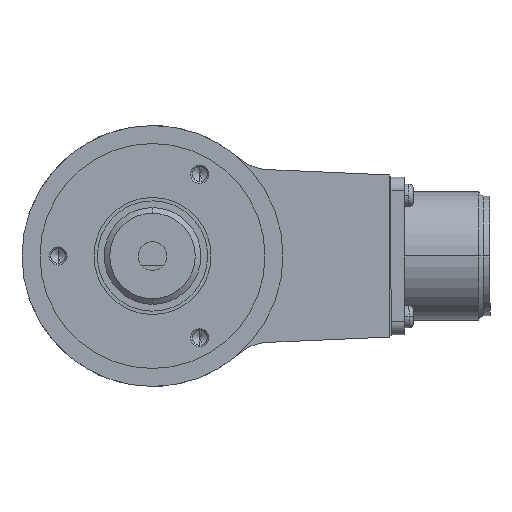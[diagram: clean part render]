
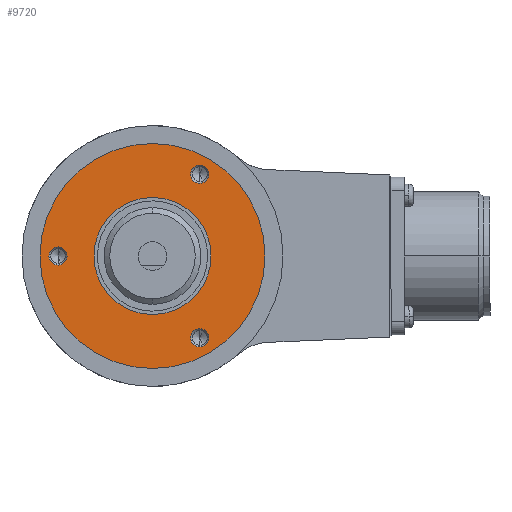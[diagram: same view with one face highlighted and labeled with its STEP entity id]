
A CAD part, left-side view. The second image highlights one B-rep face of the part: STEP entity #9720.
In plain terms, the highlighted planar face has unit normal (-1, 0, 0).
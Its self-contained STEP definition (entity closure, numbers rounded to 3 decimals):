
#380 = CARTESIAN_POINT ( 'NONE',  ( -3.622, 50.423, 0. ) ) ;
#474 = ORIENTED_EDGE ( 'NONE', *, *, #15667, .F. ) ;
#584 = VERTEX_POINT ( 'NONE', #7997 ) ;
#756 = CARTESIAN_POINT ( 'NONE',  ( -3.622, 25.423, 0. ) ) ;
#780 = ORIENTED_EDGE ( 'NONE', *, *, #10001, .F. ) ;
#1028 = CIRCLE ( 'NONE', #16323, 2.025 ) ;
#1061 = VERTEX_POINT ( 'NONE', #12408 ) ;
#1132 = CIRCLE ( 'NONE', #3819, 2.025 ) ;
#1258 = CARTESIAN_POINT ( 'NONE',  ( -3.622, 25.423, -13. ) ) ;
#1331 = EDGE_CURVE ( 'NONE', #1061, #4243, #12678, .T. ) ;
#1952 = DIRECTION ( 'NONE',  ( -1., 0., 0. ) ) ;
#1978 = EDGE_CURVE ( 'NONE', #4243, #1061, #3317, .T. ) ;
#2093 = EDGE_LOOP ( 'NONE', ( #780, #5811 ) ) ;
#2412 = CARTESIAN_POINT ( 'NONE',  ( -3.622, 14.923, 18.187 ) ) ;
#2825 = FACE_BOUND ( 'NONE', #2093, .T. ) ;
#3079 = ORIENTED_EDGE ( 'NONE', *, *, #7835, .F. ) ;
#3316 = EDGE_CURVE ( 'NONE', #584, #7646, #16212, .T. ) ;
#3317 = CIRCLE ( 'NONE', #15104, 25. ) ;
#3497 = EDGE_LOOP ( 'NONE', ( #474, #11963 ) ) ;
#3555 = CARTESIAN_POINT ( 'NONE',  ( -3.622, 25.423, 0. ) ) ;
#3775 = DIRECTION ( 'NONE',  ( -1., 0., 0. ) ) ;
#3819 = AXIS2_PLACEMENT_3D ( 'NONE', #12044, #8004, #10773 ) ;
#4037 = CARTESIAN_POINT ( 'NONE',  ( -3.622, 25.423, 25. ) ) ;
#4145 = AXIS2_PLACEMENT_3D ( 'NONE', #13455, #1952, #7081 ) ;
#4243 = VERTEX_POINT ( 'NONE', #4037 ) ;
#4527 = CIRCLE ( 'NONE', #11499, 2.025 ) ;
#4668 = VERTEX_POINT ( 'NONE', #5693 ) ;
#4874 = DIRECTION ( 'NONE',  ( 0., 0., 1. ) ) ;
#4926 = AXIS2_PLACEMENT_3D ( 'NONE', #15263, #3775, #8886 ) ;
#5156 = VERTEX_POINT ( 'NONE', #8666 ) ;
#5304 = CARTESIAN_POINT ( 'NONE',  ( -3.622, 25.423, 0. ) ) ;
#5441 = AXIS2_PLACEMENT_3D ( 'NONE', #3555, #13791, #11283 ) ;
#5468 = CIRCLE ( 'NONE', #4926, 2.025 ) ;
#5517 = FACE_OUTER_BOUND ( 'NONE', #14357, .T. ) ;
#5552 = AXIS2_PLACEMENT_3D ( 'NONE', #5304, #10171, #7566 ) ;
#5693 = CARTESIAN_POINT ( 'NONE',  ( -3.622, 25.423, 13. ) ) ;
#5811 = ORIENTED_EDGE ( 'NONE', *, *, #10152, .F. ) ;
#6441 = DIRECTION ( 'NONE',  ( -1., 0., 0. ) ) ;
#6593 = DIRECTION ( 'NONE',  ( 0., 0., 1. ) ) ;
#6776 = DIRECTION ( 'NONE',  ( 0., 0., -1. ) ) ;
#7081 = DIRECTION ( 'NONE',  ( 0., 0., 1. ) ) ;
#7325 = CARTESIAN_POINT ( 'NONE',  ( -3.622, 46.423, -2.025 ) ) ;
#7416 = CIRCLE ( 'NONE', #5552, 13. ) ;
#7566 = DIRECTION ( 'NONE',  ( 0., 0., 1. ) ) ;
#7646 = VERTEX_POINT ( 'NONE', #15616 ) ;
#7752 = CARTESIAN_POINT ( 'NONE',  ( -3.622, 14.923, 16.162 ) ) ;
#7755 = VERTEX_POINT ( 'NONE', #7325 ) ;
#7786 = VERTEX_POINT ( 'NONE', #1258 ) ;
#7835 = EDGE_CURVE ( 'NONE', #4668, #7786, #7416, .T. ) ;
#7997 = CARTESIAN_POINT ( 'NONE',  ( -3.622, 14.923, -20.212 ) ) ;
#8004 = DIRECTION ( 'NONE',  ( -1., 0., 0. ) ) ;
#8201 = CIRCLE ( 'NONE', #16525, 13. ) ;
#8356 = CIRCLE ( 'NONE', #13194, 2.025 ) ;
#8415 = VERTEX_POINT ( 'NONE', #7752 ) ;
#8574 = EDGE_CURVE ( 'NONE', #5156, #8415, #1132, .T. ) ;
#8666 = CARTESIAN_POINT ( 'NONE',  ( -3.622, 14.923, 20.212 ) ) ;
#8886 = DIRECTION ( 'NONE',  ( 0., 0., 1. ) ) ;
#8993 = EDGE_CURVE ( 'NONE', #7786, #4668, #8201, .T. ) ;
#9124 = FACE_BOUND ( 'NONE', #13844, .T. ) ;
#9720 = ADVANCED_FACE ( 'NONE', ( #11819, #14319, #2825, #9124, #5517 ), #15652, .F. ) ;
#10001 = EDGE_CURVE ( 'NONE', #14350, #7755, #8356, .T. ) ;
#10152 = EDGE_CURVE ( 'NONE', #7755, #14350, #5468, .T. ) ;
#10171 = DIRECTION ( 'NONE',  ( -1., 0., 0. ) ) ;
#10461 = ORIENTED_EDGE ( 'NONE', *, *, #8574, .F. ) ;
#10773 = DIRECTION ( 'NONE',  ( 0., 0., 1. ) ) ;
#11171 = CARTESIAN_POINT ( 'NONE',  ( -3.622, 46.423, 0. ) ) ;
#11256 = DIRECTION ( 'NONE',  ( -1., 0., 0. ) ) ;
#11283 = DIRECTION ( 'NONE',  ( 0., 0., 1. ) ) ;
#11396 = ORIENTED_EDGE ( 'NONE', *, *, #8993, .F. ) ;
#11478 = CARTESIAN_POINT ( 'NONE',  ( -3.622, 14.923, -18.187 ) ) ;
#11499 = AXIS2_PLACEMENT_3D ( 'NONE', #2412, #16266, #13829 ) ;
#11819 = FACE_BOUND ( 'NONE', #3497, .T. ) ;
#11963 = ORIENTED_EDGE ( 'NONE', *, *, #3316, .F. ) ;
#12044 = CARTESIAN_POINT ( 'NONE',  ( -3.622, 14.923, 18.187 ) ) ;
#12359 = DIRECTION ( 'NONE',  ( -1., 0., 0. ) ) ;
#12408 = CARTESIAN_POINT ( 'NONE',  ( -3.622, 25.423, -25. ) ) ;
#12653 = CARTESIAN_POINT ( 'NONE',  ( -3.622, 25.423, 0. ) ) ;
#12678 = CIRCLE ( 'NONE', #5441, 25. ) ;
#13048 = ORIENTED_EDGE ( 'NONE', *, *, #1978, .T. ) ;
#13194 = AXIS2_PLACEMENT_3D ( 'NONE', #11171, #11256, #15179 ) ;
#13313 = DIRECTION ( 'NONE',  ( 1., 0., 0. ) ) ;
#13455 = CARTESIAN_POINT ( 'NONE',  ( -3.622, 14.923, -18.187 ) ) ;
#13688 = CARTESIAN_POINT ( 'NONE',  ( -3.622, 46.423, 2.025 ) ) ;
#13791 = DIRECTION ( 'NONE',  ( -1., 0., 0. ) ) ;
#13829 = DIRECTION ( 'NONE',  ( 0., 0., 1. ) ) ;
#13844 = EDGE_LOOP ( 'NONE', ( #3079, #11396 ) ) ;
#14319 = FACE_BOUND ( 'NONE', #14926, .T. ) ;
#14350 = VERTEX_POINT ( 'NONE', #13688 ) ;
#14357 = EDGE_LOOP ( 'NONE', ( #13048, #14836 ) ) ;
#14755 = AXIS2_PLACEMENT_3D ( 'NONE', #380, #13313, #6776 ) ;
#14836 = ORIENTED_EDGE ( 'NONE', *, *, #1331, .T. ) ;
#14926 = EDGE_LOOP ( 'NONE', ( #10461, #15018 ) ) ;
#15018 = ORIENTED_EDGE ( 'NONE', *, *, #15726, .F. ) ;
#15104 = AXIS2_PLACEMENT_3D ( 'NONE', #12653, #6441, #6593 ) ;
#15179 = DIRECTION ( 'NONE',  ( 0., 0., 1. ) ) ;
#15245 = DIRECTION ( 'NONE',  ( 0., 0., 1. ) ) ;
#15263 = CARTESIAN_POINT ( 'NONE',  ( -3.622, 46.423, 0. ) ) ;
#15317 = DIRECTION ( 'NONE',  ( -1., 0., 0. ) ) ;
#15616 = CARTESIAN_POINT ( 'NONE',  ( -3.622, 14.923, -16.162 ) ) ;
#15652 = PLANE ( 'NONE',  #14755 ) ;
#15667 = EDGE_CURVE ( 'NONE', #7646, #584, #1028, .T. ) ;
#15726 = EDGE_CURVE ( 'NONE', #8415, #5156, #4527, .T. ) ;
#16212 = CIRCLE ( 'NONE', #4145, 2.025 ) ;
#16266 = DIRECTION ( 'NONE',  ( -1., 0., 0. ) ) ;
#16323 = AXIS2_PLACEMENT_3D ( 'NONE', #11478, #15317, #15245 ) ;
#16525 = AXIS2_PLACEMENT_3D ( 'NONE', #756, #12359, #4874 ) ;
